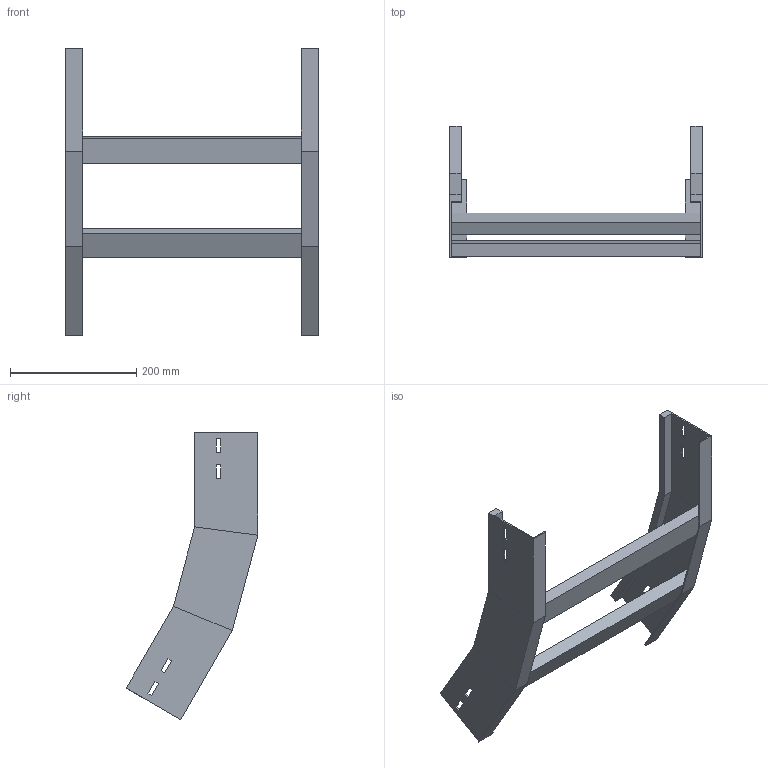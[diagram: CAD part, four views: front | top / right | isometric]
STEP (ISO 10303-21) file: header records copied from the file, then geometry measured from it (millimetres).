
FILE_DESCRIPTION (( 'STEP AP214' ), '1' );
FILE_NAME ('B2X32B5D400XX.step', '2025-03-20T09:58:42', ( '' ), ( '' ), 'SwSTEP 2.0', 'SolidWorks 2023', '' );
FILE_SCHEMA (( 'AUTOMOTIVE_DESIGN' ));
Length unit declared in the file: millimetre
Products named in the file (3): LONGH.SALITA_30°_H100_R500; B2X32B5D400XX; TRAVERSINO_400
Assembly tree (4 placements, depth 2):
  B2X32B5D400XX
    LONGH.SALITA_30°_H100_R500  x2
    TRAVERSINO_400  x2
Bounding box: 400 x 208.63 x 455.43 mm (x, y, z)
Volume: 1036081 mm3; surface area: 361387.6 mm2
Topology: 4 solids, 4 shells, 96 faces, 232 edges, 144 vertices
Faces by surface type: plane 96
Entity records: 1472 total; most frequent: CARTESIAN_POINT 243, ORIENTED_EDGE 232, DIRECTION 226, LINE 116, EDGE_CURVE 116, VECTOR 116, VERTEX_POINT 72, EDGE_LOOP 56
